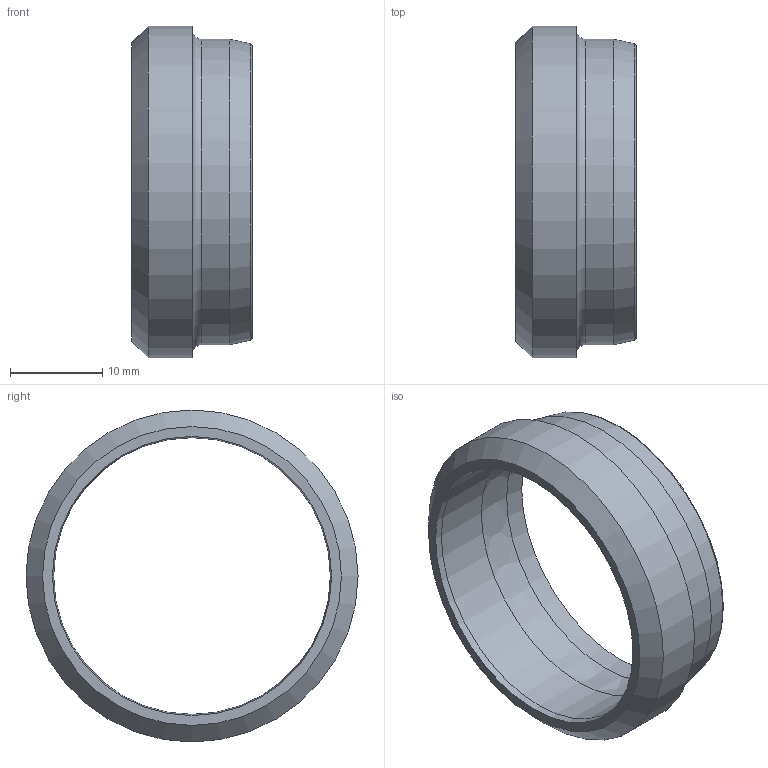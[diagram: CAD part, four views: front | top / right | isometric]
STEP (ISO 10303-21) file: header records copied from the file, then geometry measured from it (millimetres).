
FILE_DESCRIPTION( ( 'Unknown' ), '1' );
FILE_NAME( 'C:/Users/p.nanko/Desktop/3D SR/D30S.stp', 'Unknown', ( 'Peter Nanko' ), ( 'Armaturen Arndt' ), 'PSStep 14.0', 'Solid Edge ST4', ' ' );
FILE_SCHEMA( ( 'AUTOMOTIVE_DESIGN { 1 0 10303 214 1 1 1 1 }' ) );
Length unit declared in the file: millimetre
Products named in the file (1): 1001ESTERNO#0
Bounding box: 13.07 x 36 x 36 mm (x, y, z)
Volume: 2691 mm3; surface area: 3085.9 mm2
Topology: 1 solids, 1 shells, 15 faces, 31 edges, 20 vertices
Faces by surface type: cone 4, plane 4, torus 3, cylinder 3, bspline 1
Full cylindrical faces by diameter (mm): 30 x1, 33.15 x1, 36 x1
Entity records: 467 total; most frequent: CARTESIAN_POINT 73, DIRECTION 60, AXIS2_PLACEMENT_3D 30, EDGE_LOOP 30, ORIENTED_EDGE 30, FACE_OUTER_BOUND 22, STYLED_ITEM 15, PRESENTATION_STYLE_ASSIGNMENT 15
